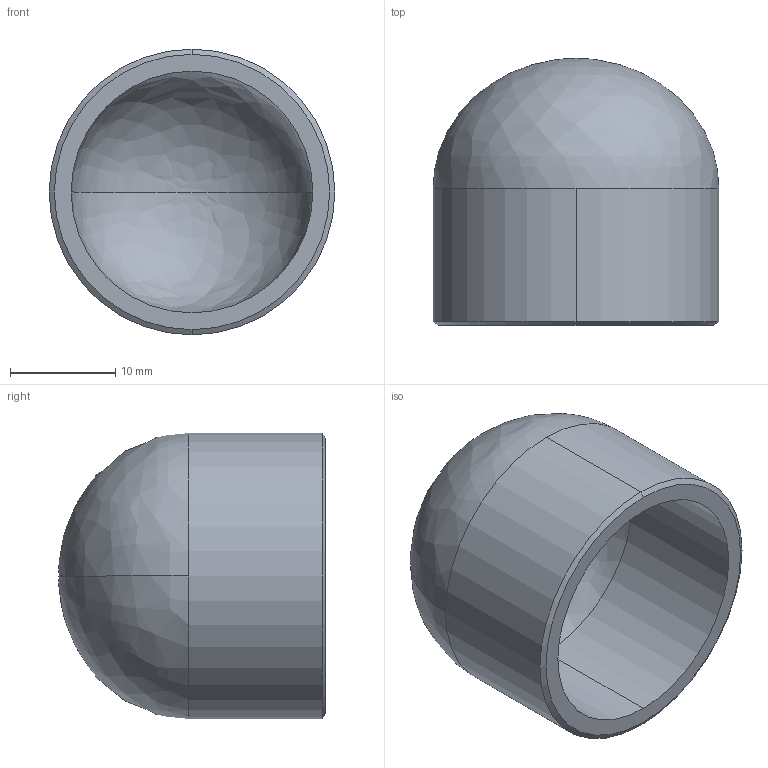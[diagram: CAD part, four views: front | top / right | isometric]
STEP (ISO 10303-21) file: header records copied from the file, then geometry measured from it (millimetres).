
FILE_DESCRIPTION (( 'STEP AP214' ), '1' );
FILE_NAME ('cap_Sch10S-20A.STEP', '2022-06-23T00:21:41', ( 'ASIS User' ), ( 'ASIS User' ), 'SwSTEP 2.0', 'SolidWorks 2022', '' );
FILE_SCHEMA (( 'AUTOMOTIVE_DESIGN' ));
Length unit declared in the file: millimetre
Products named in the file (1): cap_Sch10S-20A
Bounding box: 27.2 x 25.4 x 27.2 mm (x, y, z)
Volume: 4100.1 mm3; surface area: 4066.3 mm2
Topology: 1 solids, 1 shells, 11 faces, 28 edges, 16 vertices
Faces by surface type: bspline 4, cylinder 4, cone 2, plane 1
Entity records: 452 total; most frequent: CARTESIAN_POINT 184, DIRECTION 50, ORIENTED_EDGE 48, EDGE_CURVE 24, AXIS2_PLACEMENT_3D 22, VERTEX_POINT 16, CIRCLE 14, EDGE_LOOP 12
